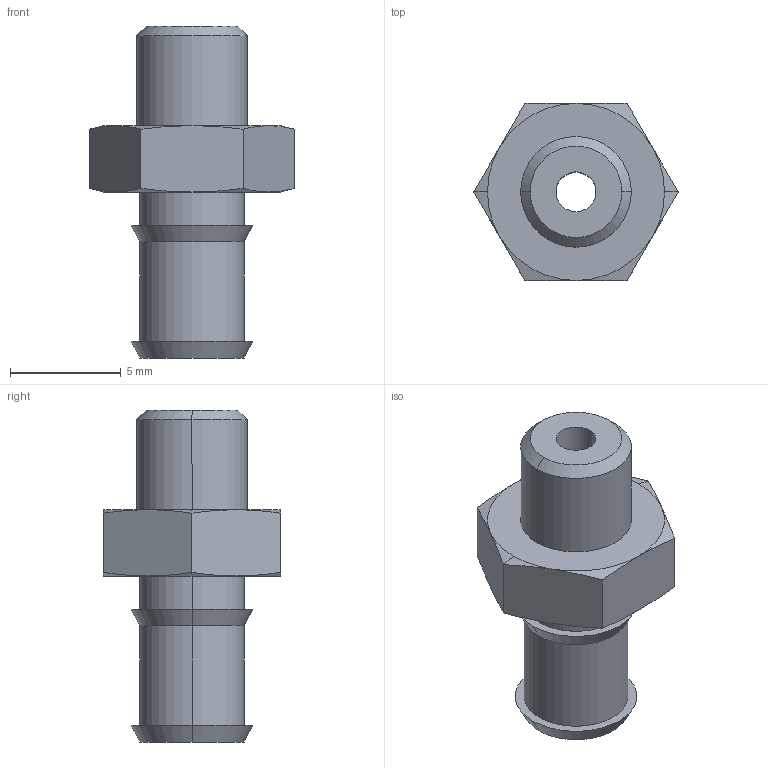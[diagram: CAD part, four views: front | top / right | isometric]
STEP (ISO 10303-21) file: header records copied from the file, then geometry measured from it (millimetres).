
FILE_DESCRIPTION(('STEP AP214'),'1');
FILE_NAME('CA.08.09.040.stp','2022-09-02T13:19:32',(' '),(' '),'Spatial InterOp 3D',' ',' ');
FILE_SCHEMA(('AUTOMOTIVE_DESIGN { 1 0 10303 214 1 1 1 1 }'));
Length unit declared in the file: millimetre
Products named in the file (1): CA.08.09.040
Bounding box: 9.24 x 8 x 15 mm (x, y, z)
Volume: 349.4 mm3; surface area: 466 mm2
Topology: 1 solids, 1 shells, 42 faces, 88 edges, 52 vertices
Faces by surface type: cone 22, plane 12, cylinder 8
Entity records: 1470 total; most frequent: CARTESIAN_POINT 231, DIRECTION 190, ORIENTED_EDGE 176, EDGE_CURVE 88, AXIS2_PLACEMENT_3D 83, VERTEX_POINT 52, EDGE_LOOP 48, STYLED_ITEM 43
